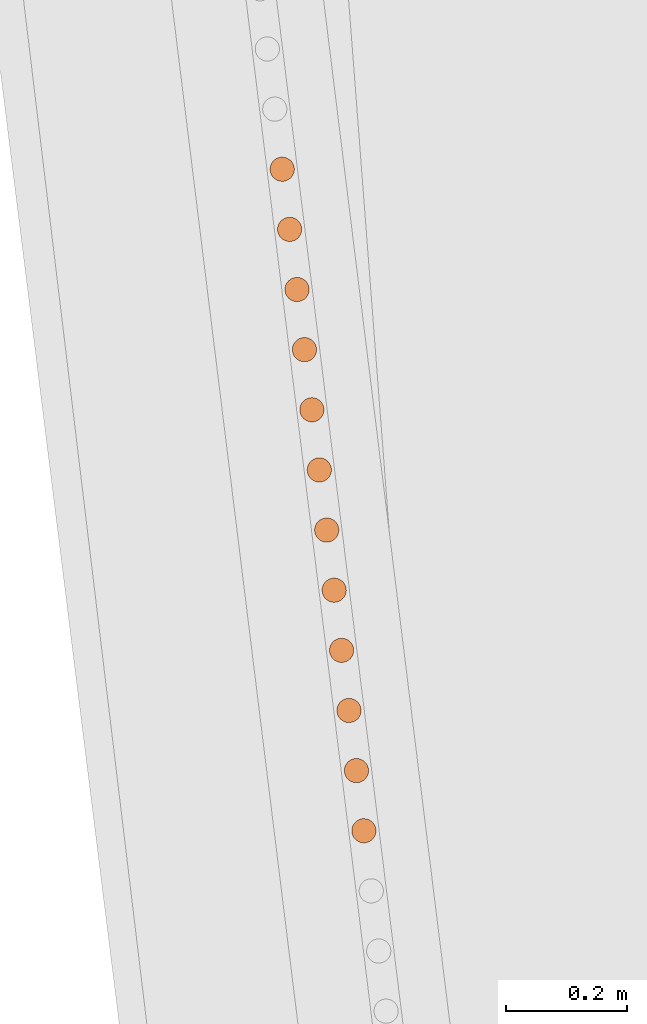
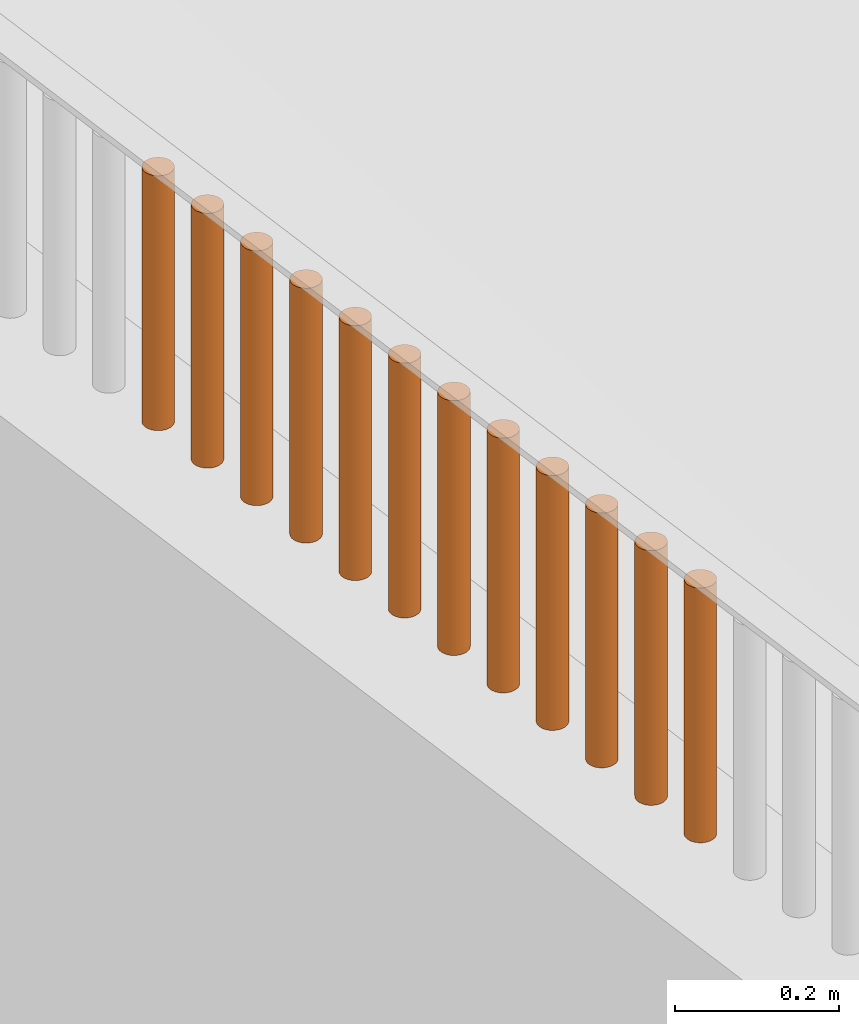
# One storey, part 64 of 1809: 12 proxies, 1 element without a shape of its own.
"""IFC2X3 building model written with IfcOpenShell, lengths in millimetres."""

from ifc_helpers import new_model, entity, si_unit, converted_unit, derived_unit, money_unit, direction, frame, origin_with_axes, place, context, subcontext, project, spatial, faceted_brep, source, transform, mapped, material, type_object, element, aggregate, save


model = new_model("IFC2X3")

# Units and contexts
model_context = context("Model", 3, precision=0.01, world=origin_with_axes(), true_north=direction((0.0, 1.0)))
body_context = subcontext(model_context, "Body", "Model", "MODEL_VIEW")
ifc_project = project(units=[si_unit("LENGTHUNIT", "METRE", prefix="MILLI"), si_unit("AREAUNIT", "SQUARE_METRE"), si_unit("VOLUMEUNIT", "CUBIC_METRE"), converted_unit("PLANEANGLEUNIT", "DEGREE", entity("IfcPlaneAngleMeasure", 0.0174532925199), si_unit("PLANEANGLEUNIT", "RADIAN"), dimensions=[0, 0, 0, 0, 0, 0, 0]), si_unit("SOLIDANGLEUNIT", "STERADIAN"), money_unit("EUR"), converted_unit("TIMEUNIT", "Year", entity("IfcTimeMeasure", 31556926.0), si_unit("TIMEUNIT", "SECOND"), dimensions=[0, 0, 1, 0, 0, 0, 0]), si_unit("MASSUNIT", "GRAM", prefix="KILO"), si_unit("THERMODYNAMICTEMPERATUREUNIT", "DEGREE_CELSIUS"), si_unit("LUMINOUSINTENSITYUNIT", "LUMEN"), si_unit("ENERGYUNIT", "JOULE", prefix="MEGA"), derived_unit("THERMALCONDUCTANCEUNIT", [(si_unit("POWERUNIT", "WATT"), 1), (si_unit("LENGTHUNIT", "METRE"), -1), (si_unit("THERMODYNAMICTEMPERATUREUNIT", "KELVIN"), -1)]), derived_unit("SPECIFICHEATCAPACITYUNIT", [(si_unit("ENERGYUNIT", "JOULE"), 1), (si_unit("MASSUNIT", "GRAM", prefix="KILO"), -1), (si_unit("THERMODYNAMICTEMPERATUREUNIT", "KELVIN"), -1)]), derived_unit("MASSDENSITYUNIT", [(si_unit("MASSUNIT", "GRAM", prefix="KILO"), 1), (si_unit("VOLUMEUNIT", "CUBIC_METRE"), -1)])], contexts=[model_context])

# Site, building, storey
site_placement = place(None, origin_with_axes())
site = spatial("IfcSite", under=ifc_project, at=site_placement, Name="Politse- ja Piirivalveameti ning Päästeameti ühishoone", CompositionType="ELEMENT")
building_placement = place(site_placement, origin_with_axes())
building = spatial("IfcBuilding", under=site, at=building_placement, Name="Politse- ja Piirivalveameti ning Päästeameti ühishoone", CompositionType="ELEMENT")
storey_placement = place(building_placement, origin_with_axes())
storey = spatial("IfcBuildingStorey", under=building, at=storey_placement, Name="Esimene korrus", CompositionType="ELEMENT", Elevation=0.0)

# Proxies
building_element_proxy_type_1 = type_object("IfcBuildingElementProxyType", Name="Railing Type", PredefinedType="NOTDEFINED")
proxy_1_placement = place(storey_placement, frame((-18956.5522504, -53688.4757966, 2100.0), z_axis=(0.0, 0.0, 1.0), x_axis=(1.0, 0.0, 0.0)))
proxy_1 = element("IfcBuildingElementProxy", 1, at=proxy_1_placement, inside=storey, type_object=building_element_proxy_type_1, Name="PIIRDEAED")
ifc_material = material(Name="ET-06_Teras - Konstruktsioon")
building_element_proxy_type_2 = type_object("IfcBuildingElementProxyType", Name="IfcBuildingElementProxy", PredefinedType="NOTDEFINED")
shared_shape_1 = source(origin_with_axes(), body_context, "Body", "Brep", [
    faceted_brep([(0.0, -20.0, 0.0), (3.47296355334, -19.6961550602, 0.0), (3.47296355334, -19.6961550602, 380.000012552), (0.0, -20.0, 380.000012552), (-3.47296355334, -19.6961550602, 0.0), (-6.84040286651, -18.7938524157, 0.0), (-10.0, -17.3205080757, 0.0), (-12.8557521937, -15.3208888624, 0.0), (-15.3208888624, -12.8557521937, 0.0), (-17.3205080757, -10.0, 0.0), (-18.7938524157, -6.84040286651, 0.0), (-19.6961550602, -3.47296355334, 0.0), (-20.0, 0.0, 0.0), (-19.6961550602, 3.47296355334, 0.0), (-18.7938524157, 6.84040286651, 0.0), (-17.3205080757, 10.0, 0.0), (-15.3208888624, 12.8557521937, 0.0), (-12.8557521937, 15.3208888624, 0.0), (-10.0, 17.3205080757, 0.0), (-6.84040286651, 18.7938524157, 0.0), (-3.47296355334, 19.6961550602, 0.0), (0.0, 20.0, 0.0), (3.47296355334, 19.6961550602, 0.0), (6.84040286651, 18.7938524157, 0.0), (10.0, 17.3205080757, 0.0), (12.8557521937, 15.3208888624, 0.0), (15.3208888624, 12.8557521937, 0.0), (17.3205080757, 10.0, 0.0), (18.7938524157, 6.84040286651, 0.0), (19.6961550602, 3.47296355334, 0.0), (20.0, 0.0, 0.0), (19.6961550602, -3.47296355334, 0.0), (18.7938524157, -6.84040286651, 0.0), (17.3205080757, -10.0, 0.0), (15.3208888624, -12.8557521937, 0.0), (12.8557521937, -15.3208888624, 0.0), (10.0, -17.3205080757, 0.0), (6.84040286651, -18.7938524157, 0.0), (6.84040286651, -18.7938524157, 380.000012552), (10.0, -17.3205080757, 380.000012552), (12.8557521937, -15.3208888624, 380.000012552), (15.3208888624, -12.8557521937, 380.000012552), (17.3205080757, -10.0, 380.000012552), (18.7938524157, -6.84040286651, 380.000012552), (19.6961550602, -3.47296355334, 380.000012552), (20.0, 0.0, 380.000012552), (19.6961550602, 3.47296355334, 380.000012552), (18.7938524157, 6.84040286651, 380.000012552), (17.3205080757, 10.0, 380.000012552), (15.3208888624, 12.8557521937, 380.000012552), (12.8557521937, 15.3208888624, 380.000012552), (10.0, 17.3205080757, 380.000012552), (6.84040286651, 18.7938524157, 380.000012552), (3.47296355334, 19.6961550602, 380.000012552), (0.0, 20.0, 380.000012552), (-3.47296355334, 19.6961550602, 380.000012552), (-6.84040286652, 18.7938524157, 380.000012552), (-10.0, 17.3205080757, 380.000012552), (-12.8557521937, 15.3208888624, 380.000012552), (-15.3208888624, 12.8557521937, 380.000012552), (-17.3205080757, 10.0, 380.000012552), (-18.7938524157, 6.84040286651, 380.000012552), (-19.6961550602, 3.47296355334, 380.000012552), (-20.0, 0.0, 380.000012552), (-19.6961550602, -3.47296355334, 380.000012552), (-18.7938524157, -6.84040286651, 380.000012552), (-17.3205080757, -10.0, 380.000012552), (-15.3208888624, -12.8557521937, 380.000012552), (-12.8557521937, -15.3208888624, 380.000012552), (-10.0, -17.3205080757, 380.000012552), (-6.84040286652, -18.7938524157, 380.000012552), (-3.47296355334, -19.6961550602, 380.000012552)], [[[0, 1, 2, 3]], [[0, 4, 5, 6, 7, 8, 9, 10, 11, 12, 13, 14, 15, 16, 17, 18, 19, 20, 21, 22, 23, 24, 25, 26, 27, 28, 29, 30, 31, 32, 33, 34, 35, 36, 37, 1]], [[1, 37, 38, 2]], [[3, 2, 38, 39, 40, 41, 42, 43, 44, 45, 46, 47, 48, 49, 50, 51, 52, 53, 54, 55, 56, 57, 58, 59, 60, 61, 62, 63, 64, 65, 66, 67, 68, 69, 70, 71]], [[4, 0, 3, 71]], [[5, 4, 71, 70]], [[6, 5, 70, 69]], [[7, 6, 69, 68]], [[8, 7, 68, 67]], [[9, 8, 67, 66]], [[10, 9, 66, 65]], [[11, 10, 65, 64]], [[12, 11, 64, 63]], [[13, 12, 63, 62]], [[14, 13, 62, 61]], [[15, 14, 61, 60]], [[16, 15, 60, 59]], [[17, 16, 59, 58]], [[18, 17, 58, 57]], [[19, 18, 57, 56]], [[20, 19, 56, 55]], [[21, 20, 55, 54]], [[22, 21, 54, 53]], [[23, 22, 53, 52]], [[24, 23, 52, 51]], [[25, 24, 51, 50]], [[26, 25, 50, 49]], [[27, 26, 49, 48]], [[28, 27, 48, 47]], [[29, 28, 47, 46]], [[30, 29, 46, 45]], [[31, 30, 45, 44]], [[32, 31, 44, 43]], [[33, 32, 43, 42]], [[34, 33, 42, 41]], [[35, 34, 41, 40]], [[36, 35, 40, 39]], [[37, 36, 39, 38]]]),
])
proxy_2_placement = place(proxy_1_placement, frame((-1391.27956352, 10437.4545762, -1.25517001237e-05), z_axis=(0.0, 0.0, 1.0), x_axis=(1.0, 0.0, 0.0)))
proxy_2 = element("IfcBuildingElementProxy", 2, at=proxy_2_placement, type_object=building_element_proxy_type_2, material=ifc_material, Name="BALUSTER - 001", context=body_context, shape_type="MappedRepresentation", body=[
    mapped(shared_shape_1, transform((0.0, 0.0, 0.0), x_axis=(0.992468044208, 0.122503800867, 0.0), y_axis=(-0.122503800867, 0.992468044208, 0.0), z_axis=(0.0, 0.0, 1.0))),
])
proxy_3_placement = place(proxy_1_placement, frame((-1513.75661265, 11429.7058905, -1.25517001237e-05), z_axis=(0.0, 0.0, 1.0), x_axis=(1.0, 0.0, 0.0)))
proxy_3 = element("IfcBuildingElementProxy", 3, at=proxy_3_placement, type_object=building_element_proxy_type_2, material=ifc_material, Name="BALUSTER - 001", context=body_context, shape_type="MappedRepresentation", body=[
    mapped(shared_shape_1, transform((0.0, 0.0, 0.0), x_axis=(0.992468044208, 0.122503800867, 0.0), y_axis=(-0.122503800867, 0.992468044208, 0.0), z_axis=(0.0, 0.0, 1.0))),
])
shared_shape_2 = source(origin_with_axes(), body_context, "Body", "Brep", [
    faceted_brep([(0.0, -20.0, 0.0), (3.47296355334, -19.6961550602, 0.0), (3.47296355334, -19.6961550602, 380.000012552), (0.0, -20.0, 380.000012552), (-3.47296355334, -19.6961550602, 0.0), (-6.84040286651, -18.7938524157, 0.0), (-10.0, -17.3205080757, 0.0), (-12.8557521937, -15.3208888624, 0.0), (-15.3208888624, -12.8557521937, 0.0), (-17.3205080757, -10.0, 0.0), (-18.7938524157, -6.84040286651, 0.0), (-19.6961550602, -3.47296355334, 0.0), (-20.0, 0.0, 0.0), (-19.6961550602, 3.47296355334, 0.0), (-18.7938524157, 6.84040286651, 0.0), (-17.3205080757, 10.0, 0.0), (-15.3208888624, 12.8557521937, 0.0), (-12.8557521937, 15.3208888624, 0.0), (-10.0, 17.3205080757, 0.0), (-6.84040286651, 18.7938524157, 0.0), (-3.47296355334, 19.6961550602, 0.0), (0.0, 20.0, 0.0), (3.47296355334, 19.6961550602, 0.0), (6.84040286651, 18.7938524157, 0.0), (10.0, 17.3205080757, 0.0), (12.8557521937, 15.3208888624, 0.0), (15.3208888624, 12.8557521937, 0.0), (17.3205080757, 10.0, 0.0), (18.7938524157, 6.84040286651, 0.0), (19.6961550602, 3.47296355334, 0.0), (20.0, 0.0, 0.0), (19.6961550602, -3.47296355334, 0.0), (18.7938524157, -6.84040286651, 0.0), (17.3205080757, -10.0, 0.0), (15.3208888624, -12.8557521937, 0.0), (12.8557521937, -15.3208888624, 0.0), (10.0, -17.3205080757, 0.0), (6.84040286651, -18.7938524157, 0.0), (6.84040286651, -18.7938524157, 380.000012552), (10.0, -17.3205080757, 380.000012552), (12.8557521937, -15.3208888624, 380.000012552), (15.3208888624, -12.8557521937, 380.000012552), (17.3205080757, -10.0, 380.000012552), (18.7938524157, -6.84040286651, 380.000012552), (19.6961550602, -3.47296355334, 380.000012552), (20.0, 0.0, 380.000012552), (19.6961550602, 3.47296355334, 380.000012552), (18.7938524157, 6.84040286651, 380.000012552), (17.3205080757, 10.0, 380.000012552), (15.3208888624, 12.8557521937, 380.000012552), (12.8557521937, 15.3208888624, 380.000012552), (10.0, 17.3205080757, 380.000012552), (6.84040286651, 18.7938524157, 380.000012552), (3.47296355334, 19.6961550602, 380.000012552), (0.0, 20.0, 380.000012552), (-3.47296355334, 19.6961550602, 380.000012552), (-6.84040286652, 18.7938524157, 380.000012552), (-10.0, 17.3205080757, 380.000012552), (-12.8557521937, 15.3208888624, 380.000012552), (-15.3208888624, 12.8557521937, 380.000012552), (-17.3205080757, 10.0, 380.000012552), (-18.7938524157, 6.84040286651, 380.000012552), (-19.6961550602, 3.47296355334, 380.000012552), (-20.0, 0.0, 380.000012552), (-19.6961550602, -3.47296355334, 380.000012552), (-18.7938524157, -6.84040286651, 380.000012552), (-17.3205080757, -10.0, 380.000012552), (-15.3208888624, -12.8557521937, 380.000012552), (-12.8557521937, -15.3208888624, 380.000012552), (-10.0, -17.3205080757, 380.000012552), (-6.84040286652, -18.7938524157, 380.000012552), (-3.47296355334, -19.6961550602, 380.000012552)], [[[0, 1, 2, 3]], [[0, 4, 5, 6, 7, 8, 9, 10, 11, 12, 13, 14, 15, 16, 17, 18, 19, 20, 21, 22, 23, 24, 25, 26, 27, 28, 29, 30, 31, 32, 33, 34, 35, 36, 37, 1]], [[1, 37, 38, 2]], [[3, 2, 38, 39, 40, 41, 42, 43, 44, 45, 46, 47, 48, 49, 50, 51, 52, 53, 54, 55, 56, 57, 58, 59, 60, 61, 62, 63, 64, 65, 66, 67, 68, 69, 70, 71]], [[4, 0, 3, 71]], [[5, 4, 71, 70]], [[6, 5, 70, 69]], [[7, 6, 69, 68]], [[8, 7, 68, 67]], [[9, 8, 67, 66]], [[10, 9, 66, 65]], [[11, 10, 65, 64]], [[12, 11, 64, 63]], [[13, 12, 63, 62]], [[14, 13, 62, 61]], [[15, 14, 61, 60]], [[16, 15, 60, 59]], [[17, 16, 59, 58]], [[18, 17, 58, 57]], [[19, 18, 57, 56]], [[20, 19, 56, 55]], [[21, 20, 55, 54]], [[22, 21, 54, 53]], [[23, 22, 53, 52]], [[24, 23, 52, 51]], [[25, 24, 51, 50]], [[26, 25, 50, 49]], [[27, 26, 49, 48]], [[28, 27, 48, 47]], [[29, 28, 47, 46]], [[30, 29, 46, 45]], [[31, 30, 45, 44]], [[32, 31, 44, 43]], [[33, 32, 43, 42]], [[34, 33, 42, 41]], [[35, 34, 41, 40]], [[36, 35, 40, 39]], [[37, 36, 39, 38]]]),
])
proxy_4_placement = place(proxy_1_placement, frame((-1403.52726844, 10536.6797077, -1.25517001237e-05), z_axis=(0.0, 0.0, 1.0), x_axis=(1.0, 0.0, 0.0)))
proxy_4 = element("IfcBuildingElementProxy", 4, at=proxy_4_placement, type_object=building_element_proxy_type_2, material=ifc_material, Name="BALUSTER - 001", context=body_context, shape_type="MappedRepresentation", body=[
    mapped(shared_shape_2, transform((0.0, 0.0, 0.0), x_axis=(0.992468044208, 0.122503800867, 0.0), y_axis=(-0.122503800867, 0.992468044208, 0.0), z_axis=(0.0, 0.0, 1.0))),
])
proxy_5_placement = place(proxy_1_placement, frame((-1415.77497335, 10635.9048391, -1.25517001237e-05), z_axis=(0.0, 0.0, 1.0), x_axis=(1.0, 0.0, 0.0)))
proxy_5 = element("IfcBuildingElementProxy", 5, at=proxy_5_placement, type_object=building_element_proxy_type_2, material=ifc_material, Name="BALUSTER - 001", context=body_context, shape_type="MappedRepresentation", body=[
    mapped(shared_shape_2, transform((0.0, 0.0, 0.0), x_axis=(0.992468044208, 0.122503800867, 0.0), y_axis=(-0.122503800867, 0.992468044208, 0.0), z_axis=(0.0, 0.0, 1.0))),
])
proxy_6_placement = place(proxy_1_placement, frame((-1428.02267826, 10735.1299705, -1.25517001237e-05), z_axis=(0.0, 0.0, 1.0), x_axis=(1.0, 0.0, 0.0)))
proxy_6 = element("IfcBuildingElementProxy", 6, at=proxy_6_placement, type_object=building_element_proxy_type_2, material=ifc_material, Name="BALUSTER - 001", context=body_context, shape_type="MappedRepresentation", body=[
    mapped(shared_shape_2, transform((0.0, 0.0, 0.0), x_axis=(0.992468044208, 0.122503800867, 0.0), y_axis=(-0.122503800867, 0.992468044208, 0.0), z_axis=(0.0, 0.0, 1.0))),
])
proxy_7_placement = place(proxy_1_placement, frame((-1452.51808809, 10933.5802334, -1.25517001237e-05), z_axis=(0.0, 0.0, 1.0), x_axis=(1.0, 0.0, 0.0)))
proxy_7 = element("IfcBuildingElementProxy", 7, at=proxy_7_placement, type_object=building_element_proxy_type_2, material=ifc_material, Name="BALUSTER - 001", context=body_context, shape_type="MappedRepresentation", body=[
    mapped(shared_shape_2, transform((0.0, 0.0, 0.0), x_axis=(0.992468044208, 0.122503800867, 0.0), y_axis=(-0.122503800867, 0.992468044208, 0.0), z_axis=(0.0, 0.0, 1.0))),
])
proxy_8_placement = place(proxy_1_placement, frame((-1464.765793, 11032.8053648, -1.25517001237e-05), z_axis=(0.0, 0.0, 1.0), x_axis=(1.0, 0.0, 0.0)))
proxy_8 = element("IfcBuildingElementProxy", 8, at=proxy_8_placement, type_object=building_element_proxy_type_2, material=ifc_material, Name="BALUSTER - 001", context=body_context, shape_type="MappedRepresentation", body=[
    mapped(shared_shape_2, transform((0.0, 0.0, 0.0), x_axis=(0.992468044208, 0.122503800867, 0.0), y_axis=(-0.122503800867, 0.992468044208, 0.0), z_axis=(0.0, 0.0, 1.0))),
])
proxy_9_placement = place(proxy_1_placement, frame((-1489.26120283, 11231.2556276, -1.25517001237e-05), z_axis=(0.0, 0.0, 1.0), x_axis=(1.0, 0.0, 0.0)))
proxy_9 = element("IfcBuildingElementProxy", 9, at=proxy_9_placement, type_object=building_element_proxy_type_2, material=ifc_material, Name="BALUSTER - 001", context=body_context, shape_type="MappedRepresentation", body=[
    mapped(shared_shape_2, transform((0.0, 0.0, 0.0), x_axis=(0.992468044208, 0.122503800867, 0.0), y_axis=(-0.122503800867, 0.992468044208, 0.0), z_axis=(0.0, 0.0, 1.0))),
])
proxy_10_placement = place(proxy_1_placement, frame((-1501.50890774, 11330.4807591, -1.25517001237e-05), z_axis=(0.0, 0.0, 1.0), x_axis=(1.0, 0.0, 0.0)))
proxy_10 = element("IfcBuildingElementProxy", 10, at=proxy_10_placement, type_object=building_element_proxy_type_2, material=ifc_material, Name="BALUSTER - 001", context=body_context, shape_type="MappedRepresentation", body=[
    mapped(shared_shape_2, transform((0.0, 0.0, 0.0), x_axis=(0.992468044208, 0.122503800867, 0.0), y_axis=(-0.122503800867, 0.992468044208, 0.0), z_axis=(0.0, 0.0, 1.0))),
])
shared_shape_3 = source(origin_with_axes(), body_context, "Body", "Brep", [
    faceted_brep([(0.0, -20.0, 0.0), (3.47296355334, -19.6961550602, 0.0), (3.47296355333, -19.6961550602, 380.000012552), (0.0, -20.0, 380.000012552), (-3.47296355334, -19.6961550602, 0.0), (-6.84040286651, -18.7938524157, 0.0), (-10.0, -17.3205080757, 0.0), (-12.8557521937, -15.3208888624, 0.0), (-15.3208888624, -12.8557521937, 0.0), (-17.3205080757, -10.0, 0.0), (-18.7938524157, -6.84040286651, 0.0), (-19.6961550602, -3.47296355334, 0.0), (-20.0, 0.0, 0.0), (-19.6961550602, 3.47296355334, 0.0), (-18.7938524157, 6.84040286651, 0.0), (-17.3205080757, 10.0, 0.0), (-15.3208888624, 12.8557521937, 0.0), (-12.8557521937, 15.3208888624, 0.0), (-10.0, 17.3205080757, 0.0), (-6.84040286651, 18.7938524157, 0.0), (-3.47296355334, 19.6961550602, 0.0), (0.0, 20.0, 0.0), (3.47296355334, 19.6961550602, 0.0), (6.84040286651, 18.7938524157, 0.0), (10.0, 17.3205080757, 0.0), (12.8557521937, 15.3208888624, 0.0), (15.3208888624, 12.8557521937, 0.0), (17.3205080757, 10.0, 0.0), (18.7938524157, 6.84040286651, 0.0), (19.6961550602, 3.47296355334, 0.0), (20.0, 0.0, 0.0), (19.6961550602, -3.47296355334, 0.0), (18.7938524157, -6.84040286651, 0.0), (17.3205080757, -10.0, 0.0), (15.3208888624, -12.8557521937, 0.0), (12.8557521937, -15.3208888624, 0.0), (10.0, -17.3205080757, 0.0), (6.84040286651, -18.7938524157, 0.0), (6.84040286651, -18.7938524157, 380.000012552), (9.99999999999, -17.3205080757, 380.000012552), (12.8557521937, -15.3208888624, 380.000012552), (15.3208888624, -12.8557521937, 380.000012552), (17.3205080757, -10.0, 380.000012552), (18.7938524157, -6.84040286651, 380.000012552), (19.6961550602, -3.47296355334, 380.000012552), (20.0, 0.0, 380.000012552), (19.6961550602, 3.47296355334, 380.000012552), (18.7938524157, 6.84040286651, 380.000012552), (17.3205080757, 10.0, 380.000012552), (15.3208888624, 12.8557521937, 380.000012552), (12.8557521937, 15.3208888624, 380.000012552), (9.99999999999, 17.3205080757, 380.000012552), (6.84040286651, 18.7938524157, 380.000012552), (3.47296355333, 19.6961550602, 380.000012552), (0.0, 20.0, 380.000012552), (-3.47296355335, 19.6961550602, 380.000012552), (-6.84040286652, 18.7938524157, 380.000012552), (-10.0, 17.3205080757, 380.000012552), (-12.8557521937, 15.3208888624, 380.000012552), (-15.3208888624, 12.8557521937, 380.000012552), (-17.3205080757, 10.0, 380.000012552), (-18.7938524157, 6.84040286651, 380.000012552), (-19.6961550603, 3.47296355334, 380.000012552), (-20.0, 0.0, 380.000012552), (-19.6961550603, -3.47296355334, 380.000012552), (-18.7938524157, -6.84040286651, 380.000012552), (-17.3205080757, -10.0, 380.000012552), (-15.3208888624, -12.8557521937, 380.000012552), (-12.8557521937, -15.3208888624, 380.000012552), (-10.0, -17.3205080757, 380.000012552), (-6.84040286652, -18.7938524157, 380.000012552), (-3.47296355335, -19.6961550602, 380.000012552)], [[[0, 1, 2, 3]], [[0, 4, 5, 6, 7, 8, 9, 10, 11, 12, 13, 14, 15, 16, 17, 18, 19, 20, 21, 22, 23, 24, 25, 26, 27, 28, 29, 30, 31, 32, 33, 34, 35, 36, 37, 1]], [[1, 37, 38, 2]], [[3, 2, 38, 39, 40, 41, 42, 43, 44, 45, 46, 47, 48, 49, 50, 51, 52, 53, 54, 55, 56, 57, 58, 59, 60, 61, 62, 63, 64, 65, 66, 67, 68, 69, 70, 71]], [[4, 0, 3, 71]], [[5, 4, 71, 70]], [[6, 5, 70, 69]], [[7, 6, 69, 68]], [[8, 7, 68, 67]], [[9, 8, 67, 66]], [[10, 9, 66, 65]], [[11, 10, 65, 64]], [[12, 11, 64, 63]], [[13, 12, 63, 62]], [[14, 13, 62, 61]], [[15, 14, 61, 60]], [[16, 15, 60, 59]], [[17, 16, 59, 58]], [[18, 17, 58, 57]], [[19, 18, 57, 56]], [[20, 19, 56, 55]], [[21, 20, 55, 54]], [[22, 21, 54, 53]], [[23, 22, 53, 52]], [[24, 23, 52, 51]], [[25, 24, 51, 50]], [[26, 25, 50, 49]], [[27, 26, 49, 48]], [[28, 27, 48, 47]], [[29, 28, 47, 46]], [[30, 29, 46, 45]], [[31, 30, 45, 44]], [[32, 31, 44, 43]], [[33, 32, 43, 42]], [[34, 33, 42, 41]], [[35, 34, 41, 40]], [[36, 35, 40, 39]], [[37, 36, 39, 38]]]),
])
proxy_11_placement = place(proxy_1_placement, frame((-1526.00431757, 11528.9310219, -1.25517001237e-05), z_axis=(0.0, 0.0, 1.0), x_axis=(1.0, 0.0, 0.0)))
proxy_11 = element("IfcBuildingElementProxy", 11, at=proxy_11_placement, type_object=building_element_proxy_type_2, material=ifc_material, Name="BALUSTER - 001", context=body_context, shape_type="MappedRepresentation", body=[
    mapped(shared_shape_3, transform((0.0, 0.0, 0.0), x_axis=(0.992468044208, 0.122503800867, 0.0), y_axis=(-0.122503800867, 0.992468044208, 0.0), z_axis=(0.0, 0.0, 1.0))),
])
shared_shape_4 = source(origin_with_axes(), body_context, "Body", "Brep", [
    faceted_brep([(0.0, -20.0, 0.0), (3.47296355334, -19.6961550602, 0.0), (3.47296355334, -19.6961550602, 380.000012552), (0.0, -20.0, 380.000012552), (-3.47296355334, -19.6961550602, 0.0), (-6.84040286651, -18.7938524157, 0.0), (-10.0, -17.3205080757, 0.0), (-12.8557521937, -15.3208888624, 0.0), (-15.3208888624, -12.8557521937, 0.0), (-17.3205080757, -10.0, 0.0), (-18.7938524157, -6.84040286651, 0.0), (-19.6961550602, -3.47296355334, 0.0), (-20.0, 0.0, 0.0), (-19.6961550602, 3.47296355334, 0.0), (-18.7938524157, 6.84040286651, 0.0), (-17.3205080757, 10.0, 0.0), (-15.3208888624, 12.8557521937, 0.0), (-12.8557521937, 15.3208888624, 0.0), (-10.0, 17.3205080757, 0.0), (-6.84040286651, 18.7938524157, 0.0), (-3.47296355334, 19.6961550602, 0.0), (0.0, 20.0, 0.0), (3.47296355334, 19.6961550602, 0.0), (6.84040286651, 18.7938524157, 0.0), (10.0, 17.3205080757, 0.0), (12.8557521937, 15.3208888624, 0.0), (15.3208888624, 12.8557521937, 0.0), (17.3205080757, 10.0, 0.0), (18.7938524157, 6.84040286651, 0.0), (19.6961550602, 3.47296355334, 0.0), (20.0, 0.0, 0.0), (19.6961550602, -3.47296355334, 0.0), (18.7938524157, -6.84040286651, 0.0), (17.3205080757, -10.0, 0.0), (15.3208888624, -12.8557521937, 0.0), (12.8557521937, -15.3208888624, 0.0), (10.0, -17.3205080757, 0.0), (6.84040286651, -18.7938524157, 0.0), (6.84040286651, -18.7938524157, 380.000012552), (10.0, -17.3205080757, 380.000012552), (12.8557521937, -15.3208888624, 380.000012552), (15.3208888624, -12.8557521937, 380.000012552), (17.3205080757, -10.0, 380.000012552), (18.7938524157, -6.84040286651, 380.000012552), (19.6961550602, -3.47296355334, 380.000012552), (20.0, 0.0, 380.000012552), (19.6961550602, 3.47296355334, 380.000012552), (18.7938524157, 6.84040286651, 380.000012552), (17.3205080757, 10.0, 380.000012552), (15.3208888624, 12.8557521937, 380.000012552), (12.8557521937, 15.3208888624, 380.000012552), (10.0, 17.3205080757, 380.000012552), (6.84040286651, 18.7938524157, 380.000012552), (3.47296355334, 19.6961550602, 380.000012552), (0.0, 20.0, 380.000012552), (-3.47296355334, 19.6961550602, 380.000012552), (-6.84040286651, 18.7938524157, 380.000012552), (-10.0, 17.3205080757, 380.000012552), (-12.8557521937, 15.3208888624, 380.000012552), (-15.3208888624, 12.8557521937, 380.000012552), (-17.3205080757, 10.0, 380.000012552), (-18.7938524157, 6.84040286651, 380.000012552), (-19.6961550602, 3.47296355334, 380.000012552), (-20.0, 0.0, 380.000012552), (-19.6961550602, -3.47296355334, 380.000012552), (-18.7938524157, -6.84040286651, 380.000012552), (-17.3205080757, -10.0, 380.000012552), (-15.3208888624, -12.8557521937, 380.000012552), (-12.8557521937, -15.3208888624, 380.000012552), (-10.0, -17.3205080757, 380.000012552), (-6.84040286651, -18.7938524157, 380.000012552), (-3.47296355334, -19.6961550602, 380.000012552)], [[[0, 1, 2, 3]], [[0, 4, 5, 6, 7, 8, 9, 10, 11, 12, 13, 14, 15, 16, 17, 18, 19, 20, 21, 22, 23, 24, 25, 26, 27, 28, 29, 30, 31, 32, 33, 34, 35, 36, 37, 1]], [[1, 37, 38, 2]], [[3, 2, 38, 39, 40, 41, 42, 43, 44, 45, 46, 47, 48, 49, 50, 51, 52, 53, 54, 55, 56, 57, 58, 59, 60, 61, 62, 63, 64, 65, 66, 67, 68, 69, 70, 71]], [[4, 0, 3, 71]], [[5, 4, 71, 70]], [[6, 5, 70, 69]], [[7, 6, 69, 68]], [[8, 7, 68, 67]], [[9, 8, 67, 66]], [[10, 9, 66, 65]], [[11, 10, 65, 64]], [[12, 11, 64, 63]], [[13, 12, 63, 62]], [[14, 13, 62, 61]], [[15, 14, 61, 60]], [[16, 15, 60, 59]], [[17, 16, 59, 58]], [[18, 17, 58, 57]], [[19, 18, 57, 56]], [[20, 19, 56, 55]], [[21, 20, 55, 54]], [[22, 21, 54, 53]], [[23, 22, 53, 52]], [[24, 23, 52, 51]], [[25, 24, 51, 50]], [[26, 25, 50, 49]], [[27, 26, 49, 48]], [[28, 27, 48, 47]], [[29, 28, 47, 46]], [[30, 29, 46, 45]], [[31, 30, 45, 44]], [[32, 31, 44, 43]], [[33, 32, 43, 42]], [[34, 33, 42, 41]], [[35, 34, 41, 40]], [[36, 35, 40, 39]], [[37, 36, 39, 38]]]),
])
proxy_12_placement = place(proxy_1_placement, frame((-1440.27038318, 10834.3551019, -1.25517001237e-05), z_axis=(0.0, 0.0, 1.0), x_axis=(1.0, 0.0, 0.0)))
proxy_12 = element("IfcBuildingElementProxy", 12, at=proxy_12_placement, type_object=building_element_proxy_type_2, material=ifc_material, Name="BALUSTER - 001", context=body_context, shape_type="MappedRepresentation", body=[
    mapped(shared_shape_4, transform((0.0, 0.0, 0.0), x_axis=(0.992468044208, 0.122503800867, 0.0), y_axis=(-0.122503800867, 0.992468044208, 0.0), z_axis=(0.0, 0.0, 1.0))),
])
shared_shape_5 = source(origin_with_axes(), body_context, "Body", "Brep", [
    faceted_brep([(0.0, -20.0, 0.0), (3.47296355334, -19.6961550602, 0.0), (3.47296355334, -19.6961550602, 380.000012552), (0.0, -20.0, 380.000012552), (-3.47296355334, -19.6961550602, 0.0), (-6.84040286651, -18.7938524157, 0.0), (-10.0, -17.3205080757, 0.0), (-12.8557521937, -15.3208888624, 0.0), (-15.3208888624, -12.8557521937, 0.0), (-17.3205080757, -10.0, 0.0), (-18.7938524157, -6.84040286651, 0.0), (-19.6961550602, -3.47296355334, 0.0), (-20.0, 0.0, 0.0), (-19.6961550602, 3.47296355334, 0.0), (-18.7938524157, 6.84040286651, 0.0), (-17.3205080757, 10.0, 0.0), (-15.3208888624, 12.8557521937, 0.0), (-12.8557521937, 15.3208888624, 0.0), (-10.0, 17.3205080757, 0.0), (-6.84040286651, 18.7938524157, 0.0), (-3.47296355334, 19.6961550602, 0.0), (0.0, 20.0, 0.0), (3.47296355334, 19.6961550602, 0.0), (6.84040286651, 18.7938524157, 0.0), (10.0, 17.3205080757, 0.0), (12.8557521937, 15.3208888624, 0.0), (15.3208888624, 12.8557521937, 0.0), (17.3205080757, 10.0, 0.0), (18.7938524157, 6.84040286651, 0.0), (19.6961550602, 3.47296355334, 0.0), (20.0, 0.0, 0.0), (19.6961550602, -3.47296355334, 0.0), (18.7938524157, -6.84040286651, 0.0), (17.3205080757, -10.0, 0.0), (15.3208888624, -12.8557521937, 0.0), (12.8557521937, -15.3208888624, 0.0), (10.0, -17.3205080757, 0.0), (6.84040286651, -18.7938524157, 0.0), (6.84040286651, -18.7938524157, 380.000012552), (10.0, -17.3205080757, 380.000012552), (12.8557521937, -15.3208888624, 380.000012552), (15.3208888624, -12.8557521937, 380.000012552), (17.3205080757, -10.0, 380.000012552), (18.7938524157, -6.84040286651, 380.000012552), (19.6961550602, -3.47296355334, 380.000012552), (20.0, 0.0, 380.000012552), (19.6961550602, 3.47296355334, 380.000012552), (18.7938524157, 6.84040286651, 380.000012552), (17.3205080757, 10.0, 380.000012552), (15.3208888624, 12.8557521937, 380.000012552), (12.8557521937, 15.3208888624, 380.000012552), (10.0, 17.3205080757, 380.000012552), (6.84040286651, 18.7938524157, 380.000012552), (3.47296355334, 19.6961550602, 380.000012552), (0.0, 20.0, 380.000012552), (-3.47296355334, 19.6961550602, 380.000012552), (-6.84040286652, 18.7938524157, 380.000012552), (-10.0, 17.3205080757, 380.000012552), (-12.8557521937, 15.3208888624, 380.000012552), (-15.3208888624, 12.8557521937, 380.000012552), (-17.3205080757, 10.0, 380.000012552), (-18.7938524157, 6.84040286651, 380.000012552), (-19.6961550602, 3.47296355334, 380.000012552), (-20.0, 0.0, 380.000012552), (-19.6961550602, -3.47296355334, 380.000012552), (-18.7938524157, -6.84040286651, 380.000012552), (-17.3205080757, -10.0, 380.000012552), (-15.3208888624, -12.8557521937, 380.000012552), (-12.8557521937, -15.3208888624, 380.000012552), (-10.0, -17.3205080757, 380.000012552), (-6.84040286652, -18.7938524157, 380.000012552), (-3.47296355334, -19.6961550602, 380.000012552)], [[[0, 1, 2, 3]], [[0, 4, 5, 6, 7, 8, 9, 10, 11, 12, 13, 14, 15, 16, 17, 18, 19, 20, 21, 22, 23, 24, 25, 26, 27, 28, 29, 30, 31, 32, 33, 34, 35, 36, 37, 1]], [[1, 37, 38, 2]], [[3, 2, 38, 39, 40, 41, 42, 43, 44, 45, 46, 47, 48, 49, 50, 51, 52, 53, 54, 55, 56, 57, 58, 59, 60, 61, 62, 63, 64, 65, 66, 67, 68, 69, 70, 71]], [[4, 0, 3, 71]], [[5, 4, 71, 70]], [[6, 5, 70, 69]], [[7, 6, 69, 68]], [[8, 7, 68, 67]], [[9, 8, 67, 66]], [[10, 9, 66, 65]], [[11, 10, 65, 64]], [[12, 11, 64, 63]], [[13, 12, 63, 62]], [[14, 13, 62, 61]], [[15, 14, 61, 60]], [[16, 15, 60, 59]], [[17, 16, 59, 58]], [[18, 17, 58, 57]], [[19, 18, 57, 56]], [[20, 19, 56, 55]], [[21, 20, 55, 54]], [[22, 21, 54, 53]], [[23, 22, 53, 52]], [[24, 23, 52, 51]], [[25, 24, 51, 50]], [[26, 25, 50, 49]], [[27, 26, 49, 48]], [[28, 27, 48, 47]], [[29, 28, 47, 46]], [[30, 29, 46, 45]], [[31, 30, 45, 44]], [[32, 31, 44, 43]], [[33, 32, 43, 42]], [[34, 33, 42, 41]], [[35, 34, 41, 40]], [[36, 35, 40, 39]], [[37, 36, 39, 38]]]),
])
proxy_13_placement = place(proxy_1_placement, frame((-1477.01349791, 11132.0304962, -1.25517001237e-05), z_axis=(0.0, 0.0, 1.0), x_axis=(1.0, 0.0, 0.0)))
proxy_13 = element("IfcBuildingElementProxy", 13, at=proxy_13_placement, type_object=building_element_proxy_type_2, material=ifc_material, Name="BALUSTER - 001", context=body_context, shape_type="MappedRepresentation", body=[
    mapped(shared_shape_5, transform((0.0, 0.0, 0.0), x_axis=(0.992468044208, 0.122503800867, 0.0), y_axis=(-0.122503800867, 0.992468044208, 0.0), z_axis=(0.0, 0.0, 1.0))),
])
aggregate(proxy_1, [proxy_2, proxy_4, proxy_5, proxy_6, proxy_12, proxy_7, proxy_8, proxy_13, proxy_9, proxy_10, proxy_3, proxy_11])

save(model, "model.ifc")
